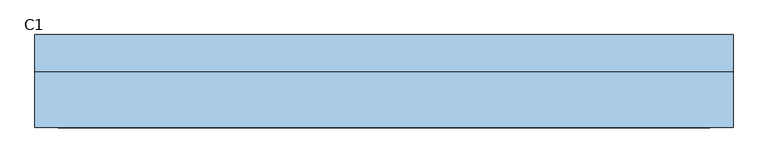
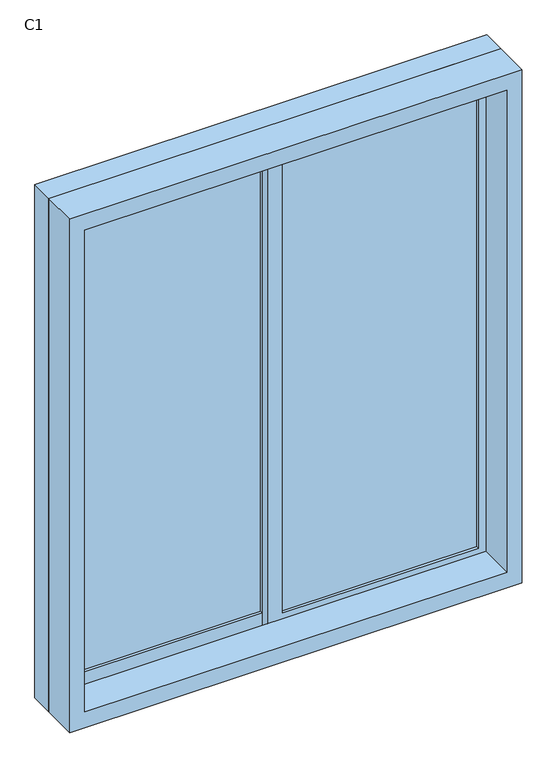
"""IFC4 building model written with IfcOpenShell, lengths in millimetres: window geometry, 推拉窗6 : C1."""

from ifc_helpers import new_model, si_unit, frame, origin, place, context, project, spatial, polyline, outline, extrude, source, transform, mapped, element, save


def c1_7cf9207f(model_context):
    return source(origin(), model_context, "Body", "SweptSolid", [
        extrude(outline(polyline([(-665.475, 3.1265625), (-15.475, 3.1265625), (-15.475, -6.8734375), (-665.475, -6.8734375), (-665.475, 3.1265625)])), frame((0.0, 0.0, 975.0), z_axis=(0.0, 0.0, 1.0), x_axis=(1.0, 0.0, 0.0)), (0.0, 0.0, 1.0), 1650.0),
        extrude(outline(polyline([(34.525, -26.8734375), (684.525, -26.8734375), (684.525, -36.8734375), (34.525, -36.8734375), (34.525, -26.8734375)])), frame((0.0, 0.0, 975.0), z_axis=(0.0, 0.0, 1.0), x_axis=(1.0, 0.0, 0.0)), (0.0, 0.0, 1.0), 1650.0),
        extrude(outline(polyline([(2700.0, -740.475), (900.0, -740.475), (900.0, 759.525), (2700.0, 759.525), (2700.0, -740.475)]), holes=[polyline([(2645.0, 709.525), (955.0, 709.525), (955.0, -690.475), (2645.0, -690.475), (2645.0, 709.525)])]), frame((0.0, -166.8734375, 0.0), z_axis=(0.0, 1.0, 0.0), x_axis=(0.0, 0.0, 1.0)), (0.0, 0.0, 1.0), 120.0),
        extrude(outline(polyline([(925.0, 34.525), (2675.0, 34.525), (2675.0, -715.475), (925.0, -715.475), (925.0, 34.525)]), holes=[polyline([(975.0, -15.475), (975.0, -665.475), (2625.0, -665.475), (2625.0, -15.475), (975.0, -15.475)])]), frame((0.0, -16.8734375, 0.0), z_axis=(0.0, 1.0, 0.0), x_axis=(0.0, 0.0, 1.0)), (0.0, 0.0, 1.0), 30.0),
        extrude(outline(polyline([(2675.0, -15.475), (925.0, -15.475), (925.0, 734.525), (2675.0, 734.525), (2675.0, -15.475)]), holes=[polyline([(2625.0, 34.525), (2625.0, 684.525), (975.0, 684.525), (975.0, 34.525), (2625.0, 34.525)])]), frame((0.0, -46.8734375, 0.0), z_axis=(0.0, 1.0, 0.0), x_axis=(0.0, 0.0, 1.0)), (0.0, 0.0, 1.0), 30.0),
        extrude(outline(polyline([(2700.0, -740.475), (900.0, -740.475), (900.0, 759.525), (2700.0, 759.525), (2700.0, -740.475)]), holes=[polyline([(925.0, -715.475), (2675.0, -715.475), (2675.0, 734.525), (925.0, 734.525), (925.0, -715.475)])]), frame((0.0, -46.8734375, 0.0), z_axis=(0.0, 1.0, 0.0), x_axis=(0.0, 0.0, 1.0)), (0.0, 0.0, 1.0), 80.0),
    ])


if __name__ == "__main__":
    model = new_model("IFC4")
    model_context = context("Model", 3, world=origin())
    ifc_project = project(units=[si_unit("LENGTHUNIT", "METRE", prefix="MILLI")], contexts=[model_context])
    site = spatial("IfcSite", under=ifc_project)
    building = spatial("IfcBuilding", under=site)
    placement = place(None, origin())
    c1_shape = c1_7cf9207f(model_context)
    element("IfcWindow", 1, ObjectType="推拉窗6 : C1", at=placement, inside=building, context=model_context, shape_type="MappedRepresentation", body=[
        mapped(c1_shape, transform((0.0, 0.0, 0.0), x_axis=(1.0, 0.0, 0.0), y_axis=(0.0, 1.0, 0.0), z_axis=(0.0, 0.0, 1.0))),
    ])
    save(model, "model.ifc")
